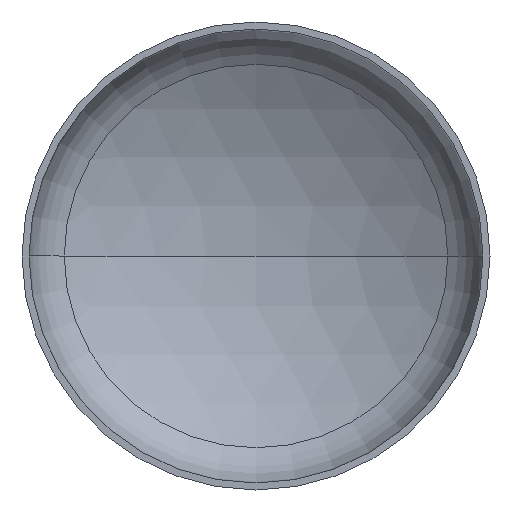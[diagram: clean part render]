
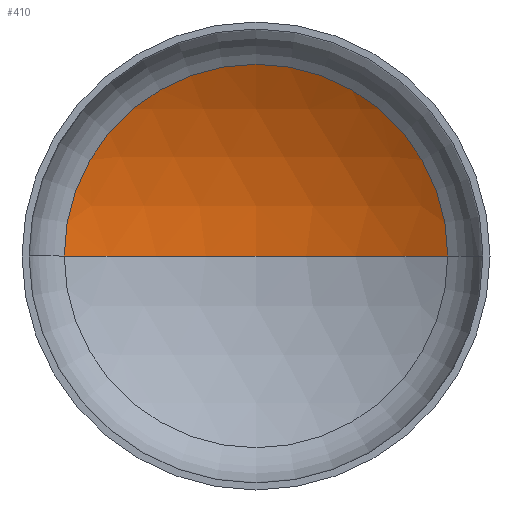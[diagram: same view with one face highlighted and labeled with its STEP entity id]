
A CAD part, front view. The second image highlights one B-rep face of the part: STEP entity #410.
In plain terms, the highlighted spherical face has radius 4800 mm.
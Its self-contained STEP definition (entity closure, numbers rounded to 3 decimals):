
#21 = ORIENTED_EDGE ( 'NONE', *, *, #369, .F. ) ;
#32 = VERTEX_POINT ( 'NONE', #253 ) ;
#38 = AXIS2_PLACEMENT_3D ( 'NONE', #98, #384, #173 ) ;
#39 = CIRCLE ( 'NONE', #122, 4800. ) ;
#48 = VERTEX_POINT ( 'NONE', #332 ) ;
#84 = VERTEX_POINT ( 'NONE', #310 ) ;
#89 = CIRCLE ( 'NONE', #388, 2458.839 ) ;
#94 = EDGE_LOOP ( 'NONE', ( #21, #107, #99 ) ) ;
#98 = CARTESIAN_POINT ( 'NONE',  ( 0., -3227.972, 0. ) ) ;
#99 = ORIENTED_EDGE ( 'NONE', *, *, #325, .T. ) ;
#107 = ORIENTED_EDGE ( 'NONE', *, *, #352, .T. ) ;
#122 = AXIS2_PLACEMENT_3D ( 'NONE', #209, #386, #235 ) ;
#152 = FACE_OUTER_BOUND ( 'NONE', #94, .T. ) ;
#164 = DIRECTION ( 'NONE',  ( 0., -1., 0. ) ) ;
#166 = CIRCLE ( 'NONE', #38, 4800. ) ;
#173 = DIRECTION ( 'NONE',  ( -1., 0., 0. ) ) ;
#209 = CARTESIAN_POINT ( 'NONE',  ( 0., -3227.972, 0. ) ) ;
#235 = DIRECTION ( 'NONE',  ( 1., 0., 0. ) ) ;
#245 = AXIS2_PLACEMENT_3D ( 'NONE', #283, #400, #399 ) ;
#253 = CARTESIAN_POINT ( 'NONE',  ( -2458.839, 894.419, 0. ) ) ;
#283 = CARTESIAN_POINT ( 'NONE',  ( 0., -3227.972, 0. ) ) ;
#294 = SPHERICAL_SURFACE ( 'NONE', #245, 4800. ) ;
#310 = CARTESIAN_POINT ( 'NONE',  ( 0., 1572.028, 0. ) ) ;
#325 = EDGE_CURVE ( 'NONE', #48, #32, #89, .T. ) ;
#330 = CARTESIAN_POINT ( 'NONE',  ( 0., 894.419, 0. ) ) ;
#332 = CARTESIAN_POINT ( 'NONE',  ( 2458.839, 894.419, 0. ) ) ;
#352 = EDGE_CURVE ( 'NONE', #84, #48, #166, .T. ) ;
#369 = EDGE_CURVE ( 'NONE', #84, #32, #39, .T. ) ;
#384 = DIRECTION ( 'NONE',  ( 0., 0., -1. ) ) ;
#386 = DIRECTION ( 'NONE',  ( 0., 0., 1. ) ) ;
#388 = AXIS2_PLACEMENT_3D ( 'NONE', #330, #164, #411 ) ;
#399 = DIRECTION ( 'NONE',  ( -1., 0., 0. ) ) ;
#400 = DIRECTION ( 'NONE',  ( 0., 0., -1. ) ) ;
#410 = ADVANCED_FACE ( 'NONE', ( #152 ), #294, .F. ) ;
#411 = DIRECTION ( 'NONE',  ( 1., 0., 0. ) ) ;
